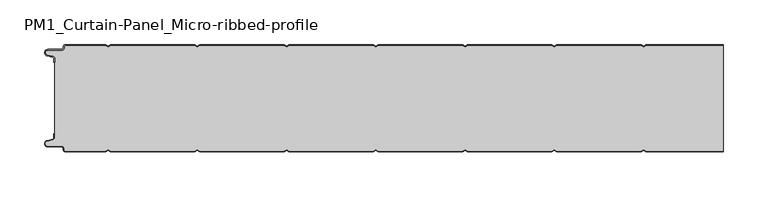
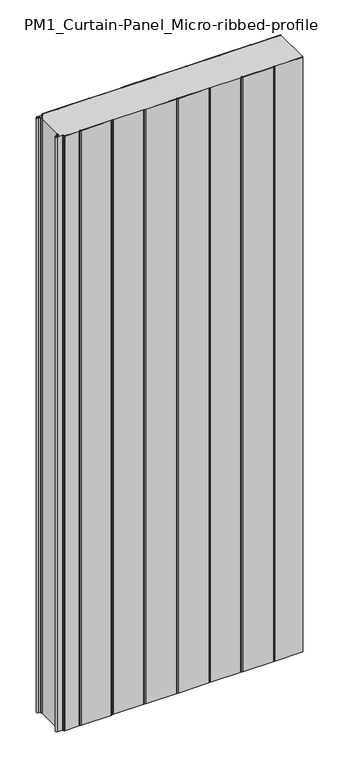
"""IFC4 building model written with IfcOpenShell, lengths in millimetres: plate geometry, PM1_Curtain-Panel_Micro-ribbed-profile : ACH_PM1_Acoustic-Sectioning-Panel_120M."""

from ifc_helpers import new_model, si_unit, point, frame_2d, origin, origin_with_axes, place, context, project, spatial, polyline, circle_curve, trimmed, segment, composite_curve, outline, extrude, source, transform, mapped, element, save


def pm1_curtain_panel_micro_ribbed_profile_fcd02327(model_context):
    return source(origin(), model_context, "Body", "SweptSolid", [
        extrude(outline(composite_curve([segment(trimmed(circle_curve(frame_2d((-377.0119739, -15.878557)), 2.0), [point((-375.0119739, -15.878557))], [point((-376.5620718, -13.9298169))], True, "CARTESIAN"), True, "CONTINUOUS"), segment(polyline([(-376.5620718, -13.9298169), (-382.7217978, -12.507732)]), True, "CONTINUOUS"), segment(trimmed(circle_curve(frame_2d((-381.9119739, -9.0)), 3.6), [point((-382.7217978, -12.507732))], [point((-381.9119739, -5.4))], False, "CARTESIAN"), True, "CONTINUOUS"), segment(polyline([(-381.9119739, -5.4), (-366.4119739, -5.4)]), True, "CONTINUOUS"), segment(trimmed(circle_curve(frame_2d((-366.4119739, -3.4)), 2.0), [point((-366.4119739, -5.4))], [point((-364.4119739, -3.4))], True, "CARTESIAN"), True, "CONTINUOUS"), segment(polyline([(-364.4119739, -3.4), (-364.4119739, -2.0)]), True, "CONTINUOUS"), segment(trimmed(circle_curve(frame_2d((-362.4119739, -2.0)), 2.0), [point((-364.4119739, -2.0))], [point((-362.4119739, 0.0))], False, "CARTESIAN"), True, "CONTINUOUS"), segment(polyline([(-362.4119739, 0.0), (-317.1119734, 0.0), (-314.4119739, -1.5588455), (-311.7119745, 0.0), (-217.1119734, 0.0), (-214.4119739, -1.5588455), (-211.7119745, 0.0), (-117.1119734, 0.0), (-114.4119739, -1.5588455), (-111.7119745, 0.0), (-17.1119734, 0.0), (-14.4119739, -1.5588455), (-11.7119745, 0.0), (82.8880266, 0.0), (85.5880261, -1.5588455), (88.2880255, 0.0), (182.8880266, 0.0), (185.5880261, -1.5588455), (188.2880255, 0.0), (282.8880266, 0.0), (285.5880261, -1.5588455), (288.2880255, 0.0), (375.0119739, 0.0), (375.0119739, -0.8), (288.5023849, -0.8), (285.5880261, -2.482606), (282.6736672, -0.8), (188.5023849, -0.8), (185.5880261, -2.482606), (182.6736672, -0.8), (88.5023849, -0.8), (85.5880261, -2.482606), (82.6736672, -0.8), (-11.4976151, -0.8), (-14.4119739, -2.482606), (-17.3263328, -0.8), (-111.4976151, -0.8), (-114.4119739, -2.482606), (-117.3263328, -0.8), (-211.4976151, -0.8), (-214.4119739, -2.482606), (-217.3263328, -0.8), (-311.4976151, -0.8), (-314.4119739, -2.482606), (-317.3263328, -0.8), (-362.4119739, -0.8)]), True, "CONTINUOUS"), segment(trimmed(circle_curve(frame_2d((-362.4119739, -2.0)), 1.2), [point((-362.4119739, -0.8))], [point((-363.6119739, -2.0))], True, "CARTESIAN"), True, "CONTINUOUS"), segment(polyline([(-363.6119739, -2.0), (-363.6119739, -3.4)]), True, "CONTINUOUS"), segment(trimmed(circle_curve(frame_2d((-366.4119739, -3.4)), 2.8), [point((-363.6119739, -3.4))], [point((-366.4119739, -6.2))], False, "CARTESIAN"), True, "CONTINUOUS"), segment(polyline([(-366.4119739, -6.2), (-381.9119739, -6.2)]), True, "CONTINUOUS"), segment(trimmed(circle_curve(frame_2d((-381.9119739, -9.0)), 2.8), [point((-381.9119739, -6.2))], [point((-382.541837, -11.7282362))], True, "CARTESIAN"), True, "CONTINUOUS"), segment(polyline([(-382.541837, -11.7282362), (-376.3821109, -13.150321)]), True, "CONTINUOUS"), segment(trimmed(circle_curve(frame_2d((-377.0119739, -15.878557)), 2.8), [point((-376.3821109, -13.150321))], [point((-374.2119739, -15.878557))], False, "CARTESIAN"), True, "CONTINUOUS"), segment(polyline([(-374.2119739, -15.878557), (-374.2119739, -20.0), (-375.0119739, -20.0), (-375.0119739, -15.878557)]), True, "CONTINUOUS")], self_intersect=False)), origin_with_axes(), (0.0, 0.0, 1.0), 1945.7507136),
        extrude(outline(composite_curve([segment(polyline([(-374.2119739, -104.1214426), (-374.2119739, -15.8785573)]), True, "CONTINUOUS"), segment(trimmed(circle_curve(frame_2d((-377.0119739, -15.8785573)), 2.8), [point((-374.2119739, -15.8785573))], [point((-376.3821109, -13.1503212))], True, "CARTESIAN"), True, "CONTINUOUS"), segment(polyline([(-376.3821109, -13.1503212), (-382.541837, -11.7282362)]), True, "CONTINUOUS"), segment(trimmed(circle_curve(frame_2d((-381.911974, -9.0)), 2.8), [point((-382.541837, -11.7282362))], [point((-381.911974, -6.2))], False, "CARTESIAN"), True, "CONTINUOUS"), segment(polyline([(-381.911974, -6.2), (-366.411974, -6.2)]), True, "CONTINUOUS"), segment(trimmed(circle_curve(frame_2d((-366.411974, -3.4)), 2.8), [point((-366.411974, -6.2))], [point((-363.611974, -3.4))], True, "CARTESIAN"), True, "CONTINUOUS"), segment(polyline([(-363.611974, -3.4), (-363.611974, -2.0)]), True, "CONTINUOUS"), segment(trimmed(circle_curve(frame_2d((-362.411974, -2.0)), 1.2), [point((-363.611974, -2.0))], [point((-362.411974, -0.8))], False, "CARTESIAN"), True, "CONTINUOUS"), segment(polyline([(-362.411974, -0.8), (-317.3263329, -0.8), (-314.411974, -2.482606), (-311.4976152, -0.8), (-217.3263329, -0.8), (-214.411974, -2.482606), (-211.4976152, -0.8), (-117.3263329, -0.8), (-114.411974, -2.482606), (-111.4976152, -0.8), (-17.3263329, -0.8), (-14.411974, -2.482606), (-11.4976152, -0.8), (82.6736671, -0.8), (85.588026, -2.482606), (88.5023848, -0.8), (182.6736671, -0.8), (185.588026, -2.482606), (188.5023848, -0.8), (282.6736671, -0.8), (285.588026, -2.482606), (288.5023848, -0.8), (375.0119739, -0.8), (375.0119739, -119.2), (288.5023848, -119.2), (285.588026, -117.517394), (282.6736671, -119.2), (188.5023848, -119.2), (185.588026, -117.517394), (182.6736671, -119.2), (88.5023848, -119.2), (85.588026, -117.517394), (82.6736671, -119.2), (-11.4976152, -119.2), (-14.411974, -117.517394), (-17.3263329, -119.2), (-111.4976152, -119.2), (-114.411974, -117.517394), (-117.3263329, -119.2), (-211.4976152, -119.2), (-214.411974, -117.517394), (-217.3263329, -119.2), (-311.4976152, -119.2), (-314.411974, -117.517394), (-317.3263329, -119.2), (-362.411974, -119.2)]), True, "CONTINUOUS"), segment(trimmed(circle_curve(frame_2d((-362.411974, -118.0)), 1.2), [point((-362.411974, -119.2))], [point((-363.611974, -118.0))], False, "CARTESIAN"), True, "CONTINUOUS"), segment(polyline([(-363.611974, -118.0), (-363.611974, -116.6)]), True, "CONTINUOUS"), segment(trimmed(circle_curve(frame_2d((-366.411974, -116.6)), 2.8), [point((-363.611974, -116.6))], [point((-366.411974, -113.8))], True, "CARTESIAN"), True, "CONTINUOUS"), segment(polyline([(-366.411974, -113.8), (-381.911974, -113.8)]), True, "CONTINUOUS"), segment(trimmed(circle_curve(frame_2d((-381.911974, -111.0)), 2.8), [point((-381.911974, -113.8))], [point((-382.541837, -108.2717638))], False, "CARTESIAN"), True, "CONTINUOUS"), segment(polyline([(-382.541837, -108.2717638), (-376.3821109, -106.8496788)]), True, "CONTINUOUS"), segment(trimmed(circle_curve(frame_2d((-377.0119739, -104.1214426)), 2.8), [point((-376.3821109, -106.8496788))], [point((-374.2119739, -104.1214426))], True, "CARTESIAN"), True, "CONTINUOUS")], self_intersect=False)), origin_with_axes(), (0.0, 0.0, 1.0), 1945.7507136),
        extrude(outline(composite_curve([segment(polyline([(-375.0119739, -104.121443), (-375.0119739, -100.0), (-374.2119739, -100.0), (-374.2119739, -104.121443)]), True, "CONTINUOUS"), segment(trimmed(circle_curve(frame_2d((-377.0119739, -104.121443)), 2.8), [point((-374.2119739, -104.121443))], [point((-376.3821109, -106.8496792))], False, "CARTESIAN"), True, "CONTINUOUS"), segment(polyline([(-376.3821109, -106.8496792), (-382.5418369, -108.271764)]), True, "CONTINUOUS"), segment(trimmed(circle_curve(frame_2d((-381.9119739, -111.0)), 2.8), [point((-382.5418369, -108.271764))], [point((-381.9119739, -113.8))], True, "CARTESIAN"), True, "CONTINUOUS"), segment(polyline([(-381.9119739, -113.8), (-366.4119739, -113.8)]), True, "CONTINUOUS"), segment(trimmed(circle_curve(frame_2d((-366.4119739, -116.6)), 2.8), [point((-366.4119739, -113.8))], [point((-363.6119739, -116.6))], False, "CARTESIAN"), True, "CONTINUOUS"), segment(polyline([(-363.6119739, -116.6), (-363.6119739, -118.0)]), True, "CONTINUOUS"), segment(trimmed(circle_curve(frame_2d((-362.4119739, -118.0)), 1.2), [point((-363.6119739, -118.0))], [point((-362.4119739, -119.2))], True, "CARTESIAN"), True, "CONTINUOUS"), segment(polyline([(-362.4119739, -119.2), (-317.3263328, -119.2), (-314.4119739, -117.517394), (-311.4976151, -119.2), (-217.3263328, -119.2), (-214.4119739, -117.517394), (-211.4976151, -119.2), (-117.3263328, -119.2), (-114.4119739, -117.517394), (-111.4976151, -119.2), (-17.3263328, -119.2), (-14.4119739, -117.517394), (-11.4976151, -119.2), (82.6736672, -119.2), (85.5880261, -117.517394), (88.5023849, -119.2), (182.6736672, -119.2), (185.5880261, -117.517394), (188.5023849, -119.2), (282.6736672, -119.2), (285.5880261, -117.517394), (288.5023849, -119.2), (375.0119739, -119.2), (375.0119739, -120.0), (288.2880255, -120.0), (285.5880261, -118.4411545), (282.8880266, -120.0), (188.2880255, -120.0), (185.5880261, -118.4411545), (182.8880266, -120.0), (88.2880255, -120.0), (85.5880261, -118.4411545), (82.8880266, -120.0), (-11.7119745, -120.0), (-14.4119739, -118.4411545), (-17.1119734, -120.0), (-111.7119745, -120.0), (-114.4119739, -118.4411545), (-117.1119734, -120.0), (-211.7119745, -120.0), (-214.4119739, -118.4411545), (-217.1119734, -120.0), (-311.7119745, -120.0), (-314.4119739, -118.4411545), (-317.1119734, -120.0), (-362.4119739, -120.0)]), True, "CONTINUOUS"), segment(trimmed(circle_curve(frame_2d((-362.4119739, -118.0)), 2.0), [point((-362.4119739, -120.0))], [point((-364.4119739, -118.0))], False, "CARTESIAN"), True, "CONTINUOUS"), segment(polyline([(-364.4119739, -118.0), (-364.4119739, -116.6)]), True, "CONTINUOUS"), segment(trimmed(circle_curve(frame_2d((-366.4119739, -116.6)), 2.0), [point((-364.4119739, -116.6))], [point((-366.4119739, -114.6))], True, "CARTESIAN"), True, "CONTINUOUS"), segment(polyline([(-366.4119739, -114.6), (-381.9119739, -114.6)]), True, "CONTINUOUS"), segment(trimmed(circle_curve(frame_2d((-381.9119739, -111.0)), 3.6), [point((-381.9119739, -114.6))], [point((-382.7217979, -107.4922678))], False, "CARTESIAN"), True, "CONTINUOUS"), segment(polyline([(-382.7217979, -107.4922678), (-376.5620718, -106.070183)]), True, "CONTINUOUS"), segment(trimmed(circle_curve(frame_2d((-377.0119739, -104.121443)), 2.0), [point((-376.5620718, -106.070183))], [point((-375.0119739, -104.121443))], True, "CARTESIAN"), True, "CONTINUOUS")], self_intersect=False)), origin_with_axes(), (0.0, 0.0, 1.0), 1945.7507136),
    ])


if __name__ == "__main__":
    model = new_model("IFC4")
    model_context = context("Model", 3, world=origin())
    ifc_project = project(units=[si_unit("LENGTHUNIT", "METRE", prefix="MILLI")], contexts=[model_context])
    site = spatial("IfcSite", under=ifc_project)
    building = spatial("IfcBuilding", under=site)
    placement = place(None, origin())
    pm1_curtain_panel_micro_ribbed_profile_shape = pm1_curtain_panel_micro_ribbed_profile_fcd02327(model_context)
    element("IfcPlate", 1, ObjectType="PM1_Curtain-Panel_Micro-ribbed-profile : ACH_PM1_Acoustic-Sectioning-Panel_120M", at=placement, inside=building, context=model_context, shape_type="MappedRepresentation", body=[
        mapped(pm1_curtain_panel_micro_ribbed_profile_shape, transform((0.0, 0.0, 0.0), x_axis=(1.0, 0.0, 0.0), y_axis=(0.0, 1.0, 0.0), z_axis=(0.0, 0.0, 1.0))),
    ])
    save(model, "model.ifc")
